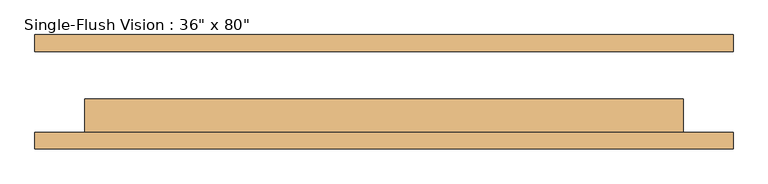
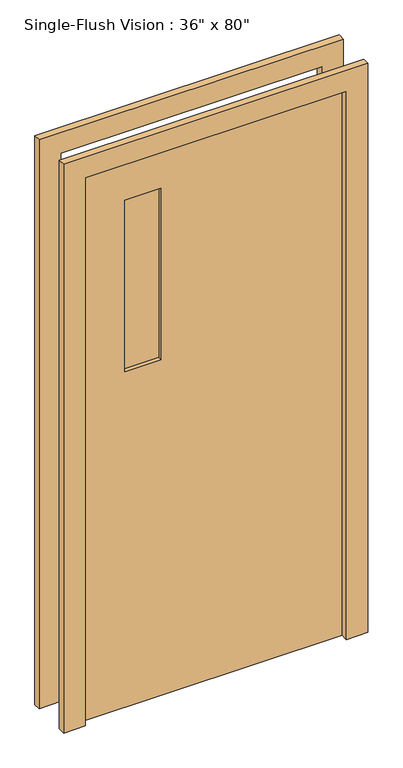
"""IFC4 building model written with IfcOpenShell, lengths in millimetres: door geometry."""

from ifc_helpers import new_model, si_unit, frame, origin, place, context, project, spatial, polyline, outline, extrude, source, transform, mapped, element, save


def door_0094a902(model_context):
    return source(origin(), model_context, "Body", "SweptSolid", [
        extrude(outline(polyline([(2108.2, -533.4), (0.0, -533.4), (0.0, -457.2), (2032.0, -457.2), (2032.0, 457.2), (0.0, 457.2), (0.0, 533.4), (2108.2, 533.4), (2108.2, -533.4)])), frame((0.0, -87.3125, 0.0), z_axis=(0.0, 1.0, 0.0), x_axis=(0.0, 0.0, 1.0)), (0.0, 0.0, 1.0), 25.4),
        extrude(outline(polyline([(2032.0, 457.2), (0.0, 457.2), (0.0, 533.4), (2108.2, 533.4), (2108.2, -533.4), (0.0, -533.4), (0.0, -457.2), (2032.0, -457.2), (2032.0, 457.2)])), frame((0.0, 61.9125, 0.0), z_axis=(0.0, 1.0, 0.0), x_axis=(0.0, 0.0, 1.0)), (0.0, 0.0, 1.0), 25.4),
        extrude(outline(polyline([(-177.8, -23.8125), (-177.8, -30.1625), (-304.8, -30.1625), (-304.8, -23.8125), (-177.8, -23.8125)])), frame((0.0, 0.0, 1244.6), z_axis=(0.0, 0.0, 1.0), x_axis=(1.0, 0.0, 0.0)), (0.0, 0.0, 1.0), 635.0),
        extrude(outline(polyline([(-177.8, -42.8625), (-177.8, -49.2125), (-304.8, -49.2125), (-304.8, -42.8625), (-177.8, -42.8625)])), frame((0.0, 0.0, 1244.6), z_axis=(0.0, 0.0, 1.0), x_axis=(1.0, 0.0, 0.0)), (0.0, 0.0, 1.0), 635.0),
        extrude(outline(polyline([(2032.0, -457.2), (0.0, -457.2), (0.0, 457.2), (2032.0, 457.2), (2032.0, -457.2)]), holes=[polyline([(1879.6, -304.8), (1879.6, -177.8), (1244.6, -177.8), (1244.6, -304.8), (1879.6, -304.8)])]), frame((0.0, -61.9125, 0.0), z_axis=(0.0, 1.0, 0.0), x_axis=(0.0, 0.0, 1.0)), (0.0, 0.0, 1.0), 50.8),
    ])


if __name__ == "__main__":
    model = new_model("IFC4")
    model_context = context("Model", 3, world=origin())
    ifc_project = project(units=[si_unit("LENGTHUNIT", "METRE", prefix="MILLI")], contexts=[model_context])
    site = spatial("IfcSite", under=ifc_project)
    building = spatial("IfcBuilding", under=site)
    placement = place(None, origin())
    door_shape = door_0094a902(model_context)
    element("IfcDoor", 1, ObjectType="Single-Flush Vision : 36\" x 80\"", at=placement, inside=building, context=model_context, shape_type="MappedRepresentation", body=[
        mapped(door_shape, transform((0.0, 0.0, 0.0), x_axis=(1.0, 0.0, 0.0), y_axis=(0.0, 1.0, 0.0), z_axis=(0.0, 0.0, 1.0))),
    ])
    save(model, "model.ifc")
